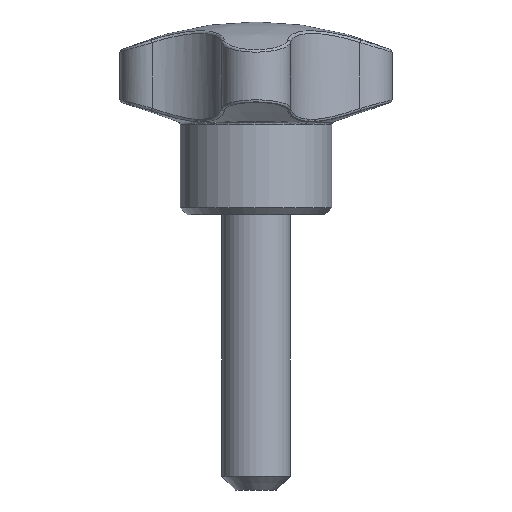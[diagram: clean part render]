
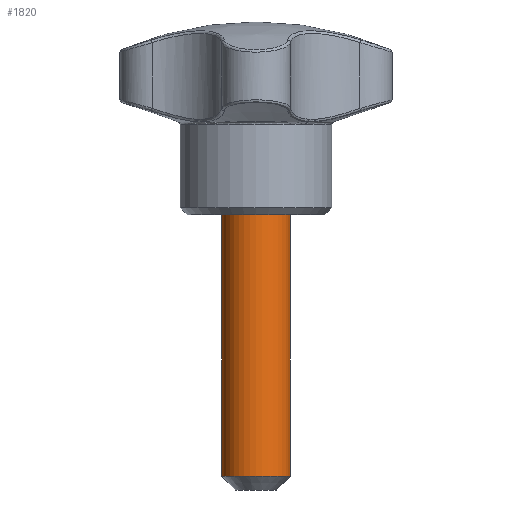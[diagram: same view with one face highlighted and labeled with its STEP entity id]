
A CAD part, front view. The second image highlights one B-rep face of the part: STEP entity #1820.
In plain terms, the highlighted cylindrical face has radius 2.5 mm (diameter 5 mm), a partial arc.
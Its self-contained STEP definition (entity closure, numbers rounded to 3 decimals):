
#1792 = EDGE_CURVE ( 'NONE', #2168, #2219, #3784, .T. ) ;
#1799 = ORIENTED_EDGE ( 'NONE', *, *, #1792, .T. ) ;
#1801 = VERTEX_POINT ( 'NONE', #3820 ) ;
#1813 = ORIENTED_EDGE ( 'NONE', *, *, #1837, .F. ) ;
#1814 = EDGE_CURVE ( 'NONE', #2219, #1801, #3834, .T. ) ;
#1818 = ORIENTED_EDGE ( 'NONE', *, *, #1814, .T. ) ;
#1820 = ADVANCED_FACE ( 'NONE', ( #3822 ), #3835, .T. ) ;
#1824 = EDGE_LOOP ( 'NONE', ( #1799, #1818, #1839, #1813 ) ) ;
#1837 = EDGE_CURVE ( 'NONE', #2168, #1838, #3932, .T. ) ;
#1838 = VERTEX_POINT ( 'NONE', #3929 ) ;
#1839 = ORIENTED_EDGE ( 'NONE', *, *, #1841, .F. ) ;
#1841 = EDGE_CURVE ( 'NONE', #1838, #1801, #3928, .T. ) ;
#2168 = VERTEX_POINT ( 'NONE', #4713 ) ;
#2219 = VERTEX_POINT ( 'NONE', #4936 ) ;
#3740 = AXIS2_PLACEMENT_3D ( 'NONE', #3780, #3770, #3769 ) ;
#3769 = DIRECTION ( 'NONE',  ( -1., 0., 0. ) ) ;
#3770 = DIRECTION ( 'NONE',  ( 0., 0., 1. ) ) ;
#3780 = CARTESIAN_POINT ( 'NONE',  ( 0., 0., -19. ) ) ;
#3784 = CIRCLE ( 'NONE', #3740, 2.5 ) ;
#3820 = CARTESIAN_POINT ( 'NONE',  ( 2.5, 0., 0. ) ) ;
#3822 = FACE_OUTER_BOUND ( 'NONE', #1824, .T. ) ;
#3823 = AXIS2_PLACEMENT_3D ( 'NONE', #3858, #3857, #3856 ) ;
#3824 = AXIS2_PLACEMENT_3D ( 'NONE', #3888, #3922, #3921 ) ;
#3826 = DIRECTION ( 'NONE',  ( 0., 0., 1. ) ) ;
#3827 = VECTOR ( 'NONE', #3826, 1000. ) ;
#3833 = CARTESIAN_POINT ( 'NONE',  ( 2.5, 0., 8. ) ) ;
#3834 = LINE ( 'NONE', #3833, #3827 ) ;
#3835 = CYLINDRICAL_SURFACE ( 'NONE', #3823, 2.5 ) ;
#3856 = DIRECTION ( 'NONE',  ( -1., 0., 0. ) ) ;
#3857 = DIRECTION ( 'NONE',  ( 0., 0., 1. ) ) ;
#3858 = CARTESIAN_POINT ( 'NONE',  ( 0., 0., 8. ) ) ;
#3888 = CARTESIAN_POINT ( 'NONE',  ( 0., 0., 0. ) ) ;
#3921 = DIRECTION ( 'NONE',  ( -1., 0., 0. ) ) ;
#3922 = DIRECTION ( 'NONE',  ( 0., 0., 1. ) ) ;
#3926 = DIRECTION ( 'NONE',  ( 0., 0., 1. ) ) ;
#3927 = VECTOR ( 'NONE', #3926, 1000. ) ;
#3928 = CIRCLE ( 'NONE', #3824, 2.5 ) ;
#3929 = CARTESIAN_POINT ( 'NONE',  ( -2.5, 0., 0. ) ) ;
#3931 = CARTESIAN_POINT ( 'NONE',  ( -2.5, 0., 8. ) ) ;
#3932 = LINE ( 'NONE', #3931, #3927 ) ;
#4713 = CARTESIAN_POINT ( 'NONE',  ( -2.5, 0., -19. ) ) ;
#4936 = CARTESIAN_POINT ( 'NONE',  ( 2.5, 0., -19. ) ) ;
